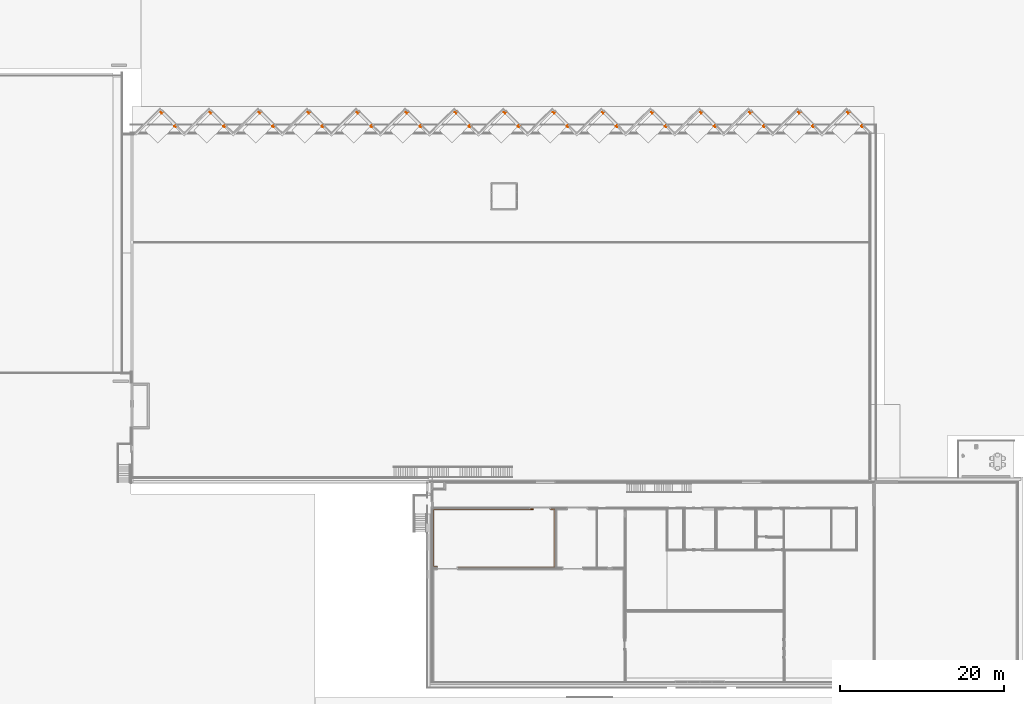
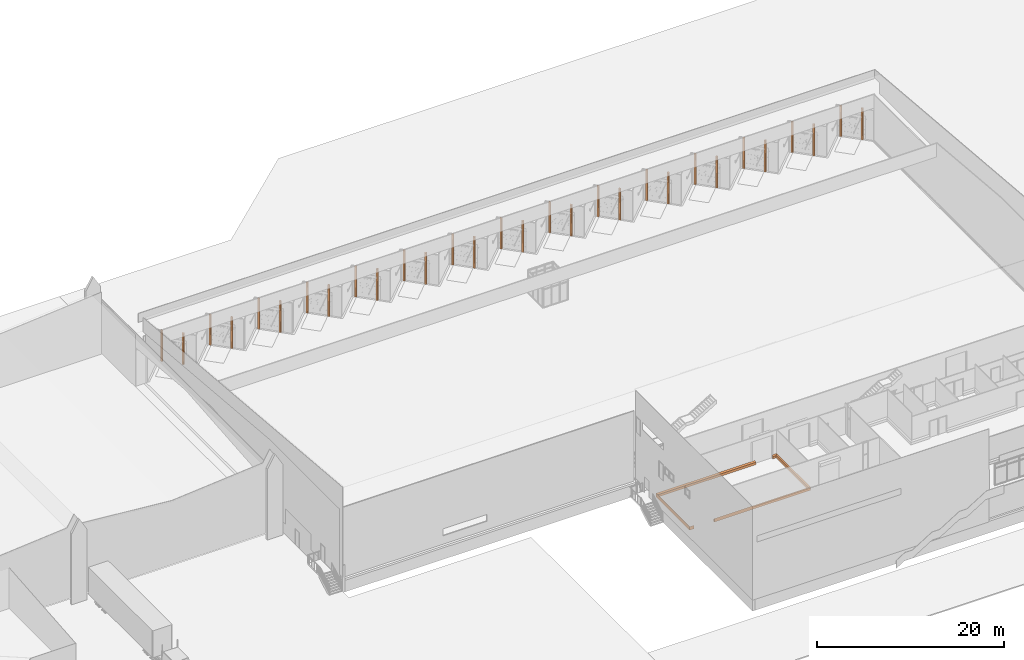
# One storey, part 63 of 64: 4 proxies.
"""IFC2X3 building model written with IfcOpenShell, lengths in millimetres."""

from ifc_helpers import new_model, entity, si_unit, converted_unit, derived_unit, direction, frame, frame_2d, origin, origin_2d_with_axis, place, context, subcontext, project, spatial, rectangle, extrude, faceted_brep, source, transform, mapped, material, type_object, type_shapes, element, save


model = new_model("IFC2X3")

# Units and contexts
model_context = context("Model", 3, precision=0.01, world=origin(), true_north=direction((4.05803320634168e-15, -1.0)))
body_context = subcontext(model_context, "Body", "Model", "MODEL_VIEW")
ifc_project = project(units=[si_unit("LENGTHUNIT", "METRE", prefix="MILLI"), si_unit("AREAUNIT", "SQUARE_METRE"), si_unit("VOLUMEUNIT", "CUBIC_METRE"), converted_unit("PLANEANGLEUNIT", "DEGREE", entity("IfcRatioMeasure", 0.0174532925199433), si_unit("PLANEANGLEUNIT", "RADIAN"), dimensions=[0, 0, 0, 0, 0, 0, 0]), si_unit("MASSUNIT", "GRAM", prefix="KILO"), derived_unit("MASSDENSITYUNIT", [(si_unit("MASSUNIT", "GRAM", prefix="KILO"), 1), (si_unit("LENGTHUNIT", "METRE"), -3)]), si_unit("TIMEUNIT", "SECOND"), si_unit("FREQUENCYUNIT", "HERTZ"), si_unit("THERMODYNAMICTEMPERATUREUNIT", "DEGREE_CELSIUS"), derived_unit("THERMALTRANSMITTANCEUNIT", [(si_unit("MASSUNIT", "GRAM", prefix="KILO"), 1), (si_unit("THERMODYNAMICTEMPERATUREUNIT", "KELVIN"), -1), (si_unit("TIMEUNIT", "SECOND"), -3)]), derived_unit("VOLUMETRICFLOWRATEUNIT", [(si_unit("LENGTHUNIT", "METRE"), 3), (si_unit("TIMEUNIT", "SECOND"), -1)]), si_unit("ELECTRICCURRENTUNIT", "AMPERE"), si_unit("ELECTRICVOLTAGEUNIT", "VOLT"), si_unit("POWERUNIT", "WATT"), si_unit("FORCEUNIT", "NEWTON", prefix="KILO"), si_unit("ILLUMINANCEUNIT", "LUX"), si_unit("LUMINOUSFLUXUNIT", "LUMEN"), si_unit("LUMINOUSINTENSITYUNIT", "CANDELA"), derived_unit("USERDEFINED", [(si_unit("MASSUNIT", "GRAM", prefix="KILO"), -1), (si_unit("LENGTHUNIT", "METRE"), -2), (si_unit("TIMEUNIT", "SECOND"), 3), (si_unit("LUMINOUSFLUXUNIT", "LUMEN"), 1)]), derived_unit("LINEARVELOCITYUNIT", [(si_unit("LENGTHUNIT", "METRE"), 1), (si_unit("TIMEUNIT", "SECOND"), -1)]), si_unit("PRESSUREUNIT", "PASCAL"), derived_unit("USERDEFINED", [(si_unit("LENGTHUNIT", "METRE"), -2), (si_unit("MASSUNIT", "GRAM", prefix="KILO"), 1), (si_unit("TIMEUNIT", "SECOND"), -2)])], contexts=[model_context])

# Site, building, storey
site_placement = place(None, frame((927466.849349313, 583801.882853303, 0.0), z_axis=(0.0, 0.0, 1.0), x_axis=(-1.0, 0.0, 0.0)))
site = spatial("IfcSite", under=ifc_project, at=site_placement, Name="Surface", CompositionType="ELEMENT")
building_placement = place(site_placement, origin())
building = spatial("IfcBuilding", under=site, at=building_placement, CompositionType="ELEMENT")
storey_placement = place(building_placement, frame((0.0, 0.0, 44170.0)))
storey = spatial("IfcBuildingStorey", under=building, at=storey_placement, Name="Ground FFL", CompositionType="ELEMENT", Elevation=44170.0)

# Proxies
ifc_material_1 = material(Name="Column")
building_element_proxy_type_1 = type_object("IfcBuildingElementProxyType", Name="Generic Models 7", PredefinedType="NOTDEFINED", material=ifc_material_1)
shared_shape_1 = source(origin(), body_context, "Body", "SweptSolid", [
    extrude(rectangle(XDim=199.999999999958, YDim=200.000000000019, at=frame_2d((-3.06243919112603e-12, -9.1873175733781e-12), x_axis=(1.0, 0.0))), frame((-48129.8504497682, -33391.4795590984, 44170.0), z_axis=(0.0, 0.0, 1.0), x_axis=(-0.707106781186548, 0.707106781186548, 0.0)), (0.0, 0.0, 1.0), 3948.05838583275),
    extrude(rectangle(XDim=199.999999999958, YDim=200.000000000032, at=frame_2d((-6.12487838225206e-12, -6.12487838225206e-12), x_axis=(1.0, 0.0))), frame((-131924.37637926, -33391.4795590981, 44170.0), z_axis=(0.0, 0.0, 1.0), x_axis=(-0.707106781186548, 0.707106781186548, 0.0)), (0.0, 0.0, 1.0), 3948.05838583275),
    extrude(rectangle(XDim=199.999999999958, YDim=200.000000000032, at=frame_2d((9.1873175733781e-12, 3.06243919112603e-12), x_axis=(1.0, 0.0))), frame((-125939.053098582, -33391.4795590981, 44170.0), z_axis=(0.0, 0.0, 1.0), x_axis=(-0.707106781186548, 0.707106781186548, 0.0)), (0.0, 0.0, 1.0), 3948.05838583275),
    extrude(rectangle(XDim=199.999999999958, YDim=200.000000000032, at=frame_2d((-6.12487838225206e-12, -6.12487838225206e-12), x_axis=(1.0, 0.0))), frame((-119953.729817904, -33391.4795590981, 44170.0), z_axis=(0.0, 0.0, 1.0), x_axis=(-0.707106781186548, 0.707106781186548, 0.0)), (0.0, 0.0, 1.0), 3948.05838583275),
    extrude(rectangle(XDim=199.999999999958, YDim=200.000000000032, at=frame_2d((6.12487838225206e-12, 6.12487838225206e-12), x_axis=(1.0, 0.0))), frame((-113968.406537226, -33391.4795590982, 44170.0), z_axis=(0.0, 0.0, 1.0), x_axis=(-0.707106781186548, 0.707106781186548, 0.0)), (0.0, 0.0, 1.0), 3948.05838583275),
    extrude(rectangle(XDim=199.999999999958, YDim=200.000000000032, at=frame_2d((9.1873175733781e-12, 3.06243919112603e-12), x_axis=(1.0, 0.0))), frame((-107983.083256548, -33391.4795590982, 44170.0), z_axis=(0.0, 0.0, 1.0), x_axis=(-0.707106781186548, 0.707106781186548, 0.0)), (0.0, 0.0, 1.0), 3948.05838583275),
    extrude(rectangle(XDim=199.999999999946, YDim=200.000000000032, at=frame_2d((9.2015284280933e-12, 3.06243919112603e-12), x_axis=(1.0, 0.0))), frame((-101997.75997587, -33391.4795590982, 44170.0), z_axis=(0.0, 0.0, 1.0), x_axis=(-0.707106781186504, 0.707106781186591, 0.0)), (0.0, 0.0, 1.0), 3948.05838583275),
    extrude(rectangle(XDim=199.999999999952, YDim=200.000000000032, at=frame_2d((6.12487838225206e-12, 6.12487838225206e-12), x_axis=(1.0, 0.0))), frame((-96012.436695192, -33391.4795590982, 44170.0), z_axis=(0.0, 0.0, 1.0), x_axis=(-0.707106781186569, 0.707106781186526, 0.0)), (0.0, 0.0, 1.0), 3948.05838583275),
    extrude(rectangle(XDim=199.999999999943, YDim=200.000000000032, at=frame_2d((7.66675611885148e-12, 4.59721150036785e-12), x_axis=(1.0, 0.0))), frame((-90027.113414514, -33391.4795590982, 44170.0), z_axis=(0.0, 0.0, 1.0), x_axis=(-0.707106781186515, 0.70710678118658, 0.0)), (0.0, 0.0, 1.0), 3948.05838583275),
    extrude(rectangle(XDim=199.999999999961, YDim=200.000000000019, at=origin_2d_with_axis()), frame((-84041.7901338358, -33391.4795590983, 44170.0), z_axis=(0.0, 0.0, 1.0), x_axis=(-0.707106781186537, 0.707106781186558, 0.0)), (0.0, 0.0, 1.0), 3948.05838583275),
    extrude(rectangle(XDim=199.999999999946, YDim=200.000000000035, at=frame_2d((6.13198380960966e-12, 6.12487838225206e-12), x_axis=(1.0, 0.0))), frame((-78056.4668531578, -33391.4795590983, 44170.0), z_axis=(0.0, 0.0, 1.0), x_axis=(-0.707106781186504, 0.707106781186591, 0.0)), (0.0, 0.0, 1.0), 3948.05838583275),
    extrude(rectangle(XDim=199.999999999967, YDim=200.000000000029, at=frame_2d((1.53477230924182e-12, -1.53477230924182e-12), x_axis=(1.0, 0.0))), frame((-72071.1435724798, -33391.4795590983, 44170.0), z_axis=(0.0, 0.0, 1.0), x_axis=(-0.707106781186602, 0.707106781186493, 0.0)), (0.0, 0.0, 1.0), 3948.05838583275),
    extrude(rectangle(XDim=199.999999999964, YDim=200.000000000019, at=frame_2d((1.53477230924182e-12, 4.59721150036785e-12), x_axis=(1.0, 0.0))), frame((-66085.8202918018, -33391.4795590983, 44170.0), z_axis=(0.0, 0.0, 1.0), x_axis=(-0.707106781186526, 0.707106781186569, 0.0)), (0.0, 0.0, 1.0), 3948.05838583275),
    extrude(rectangle(XDim=199.999999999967, YDim=200.000000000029, at=frame_2d((-3.06243919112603e-12, -3.07665004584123e-12), x_axis=(1.0, 0.0))), frame((-60100.4970111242, -33391.4795590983, 44170.0), z_axis=(0.0, 0.0, 1.0), x_axis=(-0.707106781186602, 0.707106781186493, 0.0)), (0.0, 0.0, 1.0), 3948.05838583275),
    extrude(rectangle(XDim=199.99999999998, YDim=200.000000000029, at=frame_2d((-7.65254526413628e-12, -4.59010607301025e-12), x_axis=(1.0, 0.0))), frame((-54115.1737304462, -33391.4795590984, 44170.0), z_axis=(0.0, 0.0, 1.0), x_axis=(-0.707106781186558, 0.707106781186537, 0.0)), (0.0, 0.0, 1.0), 3948.05838583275),
])
type_shapes(building_element_proxy_type_1, [shared_shape_1])
proxy_1_placement = place(storey_placement, frame((-245.519083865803, 245.519083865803, -44170.0)))
element("IfcBuildingElementProxy", 1, at=proxy_1_placement, inside=storey, type_object=building_element_proxy_type_1, material=ifc_material_1, Name="Generic Models 7:Generic Models 7", ObjectType="Generic Models 7", context=body_context, shape_type="MappedRepresentation", body=[
    mapped(shared_shape_1, transform((0.0, 0.0, 0.0), scale=1.0)),
])
building_element_proxy_type_2 = type_object("IfcBuildingElementProxyType", Name="Generic Models 7", PredefinedType="NOTDEFINED", material=ifc_material_1)
shared_shape_2 = source(origin(), body_context, "Body", "SweptSolid", [
    extrude(rectangle(XDim=199.999999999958, YDim=200.000000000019, at=frame_2d((-3.06243919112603e-12, -9.1873175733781e-12), x_axis=(1.0, 0.0))), frame((-50163.077073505, -31358.2529353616, 44170.0), z_axis=(0.0, 0.0, 1.0), x_axis=(-0.707106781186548, 0.707106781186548, 0.0)), (0.0, 0.0, 1.0), 4048.98176319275),
    extrude(rectangle(XDim=199.999999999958, YDim=200.000000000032, at=frame_2d((9.1873175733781e-12, 3.06243919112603e-12), x_axis=(1.0, 0.0))), frame((-133957.603002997, -31358.2529353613, 44170.0), z_axis=(0.0, 0.0, 1.0), x_axis=(-0.707106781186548, 0.707106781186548, 0.0)), (0.0, 0.0, 1.0), 4048.98176319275),
    extrude(rectangle(XDim=199.999999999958, YDim=200.000000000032, at=frame_2d((9.1873175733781e-12, 3.06243919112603e-12), x_axis=(1.0, 0.0))), frame((-127972.279722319, -31358.2529353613, 44170.0), z_axis=(0.0, 0.0, 1.0), x_axis=(-0.707106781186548, 0.707106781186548, 0.0)), (0.0, 0.0, 1.0), 4048.98176319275),
    extrude(rectangle(XDim=199.999999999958, YDim=200.000000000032, at=frame_2d((6.12487838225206e-12, 6.12487838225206e-12), x_axis=(1.0, 0.0))), frame((-121986.956441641, -31358.2529353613, 44170.0), z_axis=(0.0, 0.0, 1.0), x_axis=(-0.707106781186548, 0.707106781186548, 0.0)), (0.0, 0.0, 1.0), 4048.98176319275),
    extrude(rectangle(XDim=199.999999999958, YDim=200.000000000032, at=frame_2d((9.1873175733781e-12, 3.06243919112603e-12), x_axis=(1.0, 0.0))), frame((-116001.633160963, -31358.2529353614, 44170.0), z_axis=(0.0, 0.0, 1.0), x_axis=(-0.707106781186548, 0.707106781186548, 0.0)), (0.0, 0.0, 1.0), 4048.98176319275),
    extrude(rectangle(XDim=199.999999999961, YDim=200.000000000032, at=frame_2d((6.12487838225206e-12, 6.12487838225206e-12), x_axis=(1.0, 0.0))), frame((-110016.309880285, -31358.2529353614, 44170.0), z_axis=(0.0, 0.0, 1.0), x_axis=(-0.707106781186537, 0.707106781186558, 0.0)), (0.0, 0.0, 1.0), 4048.98176319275),
    extrude(rectangle(XDim=199.999999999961, YDim=200.000000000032, at=frame_2d((-1.53477230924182e-12, 1.53477230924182e-12), x_axis=(1.0, 0.0))), frame((-104030.986599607, -31358.2529353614, 44170.0), z_axis=(0.0, 0.0, 1.0), x_axis=(-0.707106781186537, 0.707106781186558, 0.0)), (0.0, 0.0, 1.0), 4048.98176319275),
    extrude(rectangle(XDim=199.999999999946, YDim=200.000000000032, at=frame_2d((7.66675611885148e-12, 4.59010607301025e-12), x_axis=(1.0, 0.0))), frame((-98045.6633189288, -31358.2529353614, 44170.0), z_axis=(0.0, 0.0, 1.0), x_axis=(-0.707106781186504, 0.707106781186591, 0.0)), (0.0, 0.0, 1.0), 4048.98176319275),
    extrude(rectangle(XDim=199.999999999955, YDim=200.000000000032, at=frame_2d((1.52766688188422e-12, -1.53477230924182e-12), x_axis=(1.0, 0.0))), frame((-92060.3400382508, -31358.2529353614, 44170.0), z_axis=(0.0, 0.0, 1.0), x_axis=(-0.707106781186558, 0.707106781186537, 0.0)), (0.0, 0.0, 1.0), 4048.98176319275),
    extrude(rectangle(XDim=199.999999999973, YDim=200.000000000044, at=frame_2d((3.06243919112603e-12, -3.06243919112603e-12), x_axis=(1.0, 0.0))), frame((-86075.0167575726, -31358.2529353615, 44170.0), z_axis=(0.0, 0.0, 1.0), x_axis=(-0.70710678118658, 0.707106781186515, 0.0)), (0.0, 0.0, 1.0), 4048.98176319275),
    extrude(rectangle(XDim=199.999999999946, YDim=200.000000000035, at=frame_2d((9.2015284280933e-12, 3.06243919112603e-12), x_axis=(1.0, 0.0))), frame((-80089.6934768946, -31358.2529353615, 44170.0), z_axis=(0.0, 0.0, 1.0), x_axis=(-0.707106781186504, 0.707106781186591, 0.0)), (0.0, 0.0, 1.0), 4048.98176319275),
    extrude(rectangle(XDim=199.999999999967, YDim=200.000000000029, at=frame_2d((-4.59010607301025e-12, -7.66675611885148e-12), x_axis=(1.0, 0.0))), frame((-74104.3701962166, -31358.2529353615, 44170.0), z_axis=(0.0, 0.0, 1.0), x_axis=(-0.707106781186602, 0.707106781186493, 0.0)), (0.0, 0.0, 1.0), 4048.98176319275),
    extrude(rectangle(XDim=199.999999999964, YDim=200.000000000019, at=frame_2d((1.53477230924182e-12, 4.59721150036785e-12), x_axis=(1.0, 0.0))), frame((-68119.0469155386, -31358.2529353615, 44170.0), z_axis=(0.0, 0.0, 1.0), x_axis=(-0.707106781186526, 0.707106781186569, 0.0)), (0.0, 0.0, 1.0), 4048.98176319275),
    extrude(rectangle(XDim=199.999999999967, YDim=200.000000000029, at=frame_2d((-9.1873175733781e-12, -9.2015284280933e-12), x_axis=(1.0, 0.0))), frame((-62133.723634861, -31358.2529353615, 44170.0), z_axis=(0.0, 0.0, 1.0), x_axis=(-0.707106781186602, 0.707106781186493, 0.0)), (0.0, 0.0, 1.0), 4048.98176319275),
    extrude(rectangle(XDim=199.99999999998, YDim=200.000000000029, at=frame_2d((-1.07220898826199e-11, -1.53477230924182e-12), x_axis=(1.0, 0.0))), frame((-56148.400354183, -31358.2529353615, 44170.0), z_axis=(0.0, 0.0, 1.0), x_axis=(-0.707106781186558, 0.707106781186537, 0.0)), (0.0, 0.0, 1.0), 4048.98176319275),
])
type_shapes(building_element_proxy_type_2, [shared_shape_2])
proxy_2_placement = place(storey_placement, frame((101.225155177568, -101.225155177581, -44170.0)))
element("IfcBuildingElementProxy", 2, at=proxy_2_placement, inside=storey, type_object=building_element_proxy_type_2, material=ifc_material_1, Name="Generic Models 15:Generic Models 7", ObjectType="Generic Models 7", context=body_context, shape_type="MappedRepresentation", body=[
    mapped(shared_shape_2, transform((0.0, 0.0, 0.0), scale=1.0)),
])
ifc_material_2 = material(Name="conc bund")
building_element_proxy_type_3 = type_object("IfcBuildingElementProxyType", Name="Generic Models 32", PredefinedType="NOTDEFINED", material=ifc_material_2)
shared_shape_3 = source(origin(), body_context, "Body", "Brep", [
    faceted_brep([(12090.0, 7050.0, 300.0), (12090.0, 7050.0, 0.0), (12090.0, 150.0, 0.0), (12090.0, 150.0, 300.0), (12240.0, 7200.0, 460.0), (12240.0, 0.0, 460.0), (12240.0, 7200.0, 0.0), (12240.0, 0.0, 0.0), (0.0, 150.0, 0.0), (0.0, 150.0, 300.0), (0.0, 0.0, 460.0), (0.0, 0.0, 0.0), (11680.0, 7050.0, 0.0), (11680.0, 7050.0, 300.0), (11680.0, 7200.0, 460.0), (11680.0, 7200.0, 0.0)], [[[0, 1, 2, 3]], [[4, 0, 3, 5]], [[6, 4, 5, 7]], [[3, 2, 8, 9]], [[5, 3, 9, 10]], [[7, 5, 10, 11]], [[12, 13, 14, 15]], [[8, 11, 10, 9]], [[13, 12, 1, 0]], [[14, 13, 0, 4]], [[15, 14, 4, 6]], [[12, 15, 6, 7, 11, 8, 2, 1]]]),
])
type_shapes(building_element_proxy_type_3, [shared_shape_3])
proxy_3_placement = place(storey_placement, frame((-93687.9372768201, 15207.4703266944, 0.0)))
element("IfcBuildingElementProxy", 3, at=proxy_3_placement, inside=storey, type_object=building_element_proxy_type_3, material=ifc_material_2, Name="Generic Models 32:Generic Models 32", ObjectType="Generic Models 32", context=body_context, shape_type="MappedRepresentation", body=[
    mapped(shared_shape_3, transform((0.0, 0.0, 0.0), scale=1.0)),
])
building_element_proxy_type_4 = type_object("IfcBuildingElementProxyType", Name="Generic Models 32", PredefinedType="NOTDEFINED", material=ifc_material_2)
shared_shape_4 = source(origin(), body_context, "Body", "Brep", [
    faceted_brep([(150.0, 150.0, 300.0), (150.0, 150.0, 0.0), (150.0, 7050.0, 0.0), (150.0, 7050.0, 300.0), (0.0, 0.0, 460.0), (0.0, 7200.0, 460.0), (0.0, 0.0, 0.0), (0.0, 7200.0, 0.0), (11840.0, 7050.0, 0.0), (11840.0, 7050.0, 300.0), (11840.0, 7200.0, 460.0), (11840.0, 7200.0, 0.0), (560.0, 150.0, 0.0), (560.0, 150.0, 300.0), (560.0, 0.0, 460.0), (560.0, 0.0, 0.0)], [[[0, 1, 2, 3]], [[4, 0, 3, 5]], [[6, 4, 5, 7]], [[3, 2, 8, 9]], [[5, 3, 9, 10]], [[7, 5, 10, 11]], [[12, 13, 14, 15]], [[8, 11, 10, 9]], [[13, 12, 1, 0]], [[14, 13, 0, 4]], [[15, 14, 4, 6]], [[12, 15, 6, 7, 11, 8, 2, 1]]]),
])
type_shapes(building_element_proxy_type_4, [shared_shape_4])
proxy_4_placement = place(storey_placement, frame((-96347.9372768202, 15207.4703266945, 0.0)))
element("IfcBuildingElementProxy", 4, at=proxy_4_placement, inside=storey, type_object=building_element_proxy_type_4, material=ifc_material_2, Name="Generic Models 65:Generic Models 32", ObjectType="Generic Models 32", context=body_context, shape_type="MappedRepresentation", body=[
    mapped(shared_shape_4, transform((0.0, 0.0, 0.0), scale=1.0)),
])

save(model, "model.ifc")
